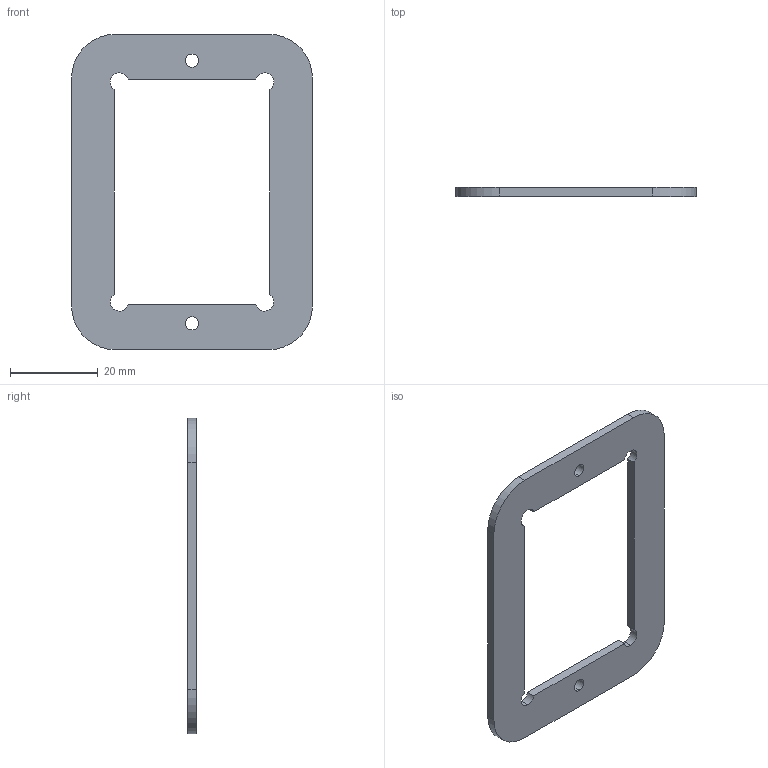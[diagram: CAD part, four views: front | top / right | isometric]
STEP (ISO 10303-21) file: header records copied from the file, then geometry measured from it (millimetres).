
FILE_DESCRIPTION (( 'STEP AP214' ), '1' );
FILE_NAME ('S11623-00001_ENTRAsys+_Schneidschablone_Panel.STEP', '2019-04-29T06:33:38', ( '' ), ( '' ), 'SwSTEP 2.0', 'SolidWorks 2017', '' );
FILE_SCHEMA (( 'AUTOMOTIVE_DESIGN' ));
Length unit declared in the file: millimetre
Products named in the file (1): S11623-00001_ENTRAsys+_Schneidschablone_Panel
Bounding box: 55 x 2 x 72 mm (x, y, z)
Volume: 4021.6 mm3; surface area: 4900.8 mm2
Topology: 1 solids, 1 shells, 24 faces, 66 edges, 44 vertices
Faces by surface type: cylinder 14, plane 10
Entity records: 824 total; most frequent: DIRECTION 144, CARTESIAN_POINT 135, ORIENTED_EDGE 132, EDGE_CURVE 66, AXIS2_PLACEMENT_3D 53, VERTEX_POINT 44, LINE 38, VECTOR 38
